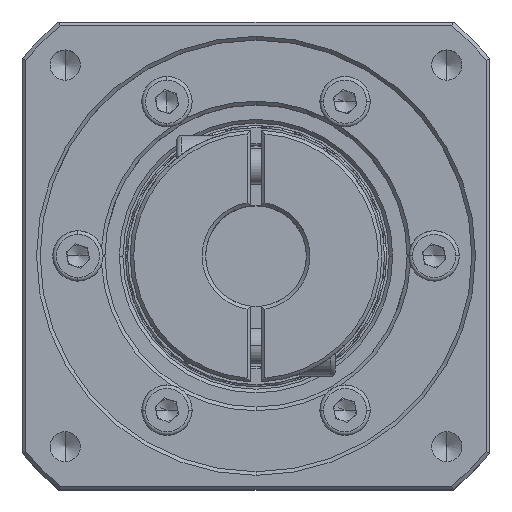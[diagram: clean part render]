
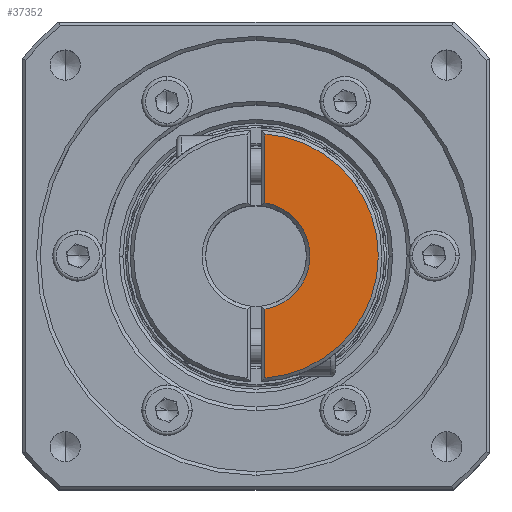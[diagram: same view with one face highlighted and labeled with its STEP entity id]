
A CAD part, top view. The second image highlights one B-rep face of the part: STEP entity #37352.
In plain terms, the highlighted planar face has unit normal (0, 0, 1).
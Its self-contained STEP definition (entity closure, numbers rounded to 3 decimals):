
#554 = DIRECTION ( 'NONE',  ( 0., -1., 0. ) ) ;
#1221 = CARTESIAN_POINT ( 'NONE',  ( -91.256, 61.278, 25.797 ) ) ;
#1455 = DIRECTION ( 'NONE',  ( 0., 0., -1. ) ) ;
#2382 = CIRCLE ( 'NONE', #106965, 17. ) ;
#5643 = AXIS2_PLACEMENT_3D ( 'NONE', #34129, #99745, #43590 ) ;
#5703 = CARTESIAN_POINT ( 'NONE',  ( -91.256, 73.069, 25.797 ) ) ;
#9567 = ORIENTED_EDGE ( 'NONE', *, *, #69779, .T. ) ;
#14756 = DIRECTION ( 'NONE',  ( 0., -1., 0. ) ) ;
#17293 = EDGE_CURVE ( 'NONE', #121199, #52963, #2382, .T. ) ;
#19879 = EDGE_CURVE ( 'NONE', #102534, #52963, #93773, .T. ) ;
#20115 = VECTOR ( 'NONE', #14756, 1000. ) ;
#26432 = EDGE_CURVE ( 'NONE', #121199, #117963, #92022, .T. ) ;
#32762 = AXIS2_PLACEMENT_3D ( 'NONE', #57638, #1455, #67108 ) ;
#33732 = PLANE ( 'NONE',  #5643 ) ;
#34129 = CARTESIAN_POINT ( 'NONE',  ( -92.506, 36.383, 25.797 ) ) ;
#37352 = ADVANCED_FACE ( 'NONE', ( #60000 ), #33732, .F. ) ;
#39342 = DIRECTION ( 'NONE',  ( 0., 0., -1. ) ) ;
#43590 = DIRECTION ( 'NONE',  ( -1., 0., 0. ) ) ;
#48332 = CARTESIAN_POINT ( 'NONE',  ( -91.256, 36.929, 25.797 ) ) ;
#52963 = VERTEX_POINT ( 'NONE', #48332 ) ;
#57638 = CARTESIAN_POINT ( 'NONE',  ( -92.506, 53.883, 25.797 ) ) ;
#60000 = FACE_OUTER_BOUND ( 'NONE', #102108, .T. ) ;
#66603 = CARTESIAN_POINT ( 'NONE',  ( -91.256, 73.069, 25.797 ) ) ;
#67108 = DIRECTION ( 'NONE',  ( 0., -1., 0. ) ) ;
#68812 = VECTOR ( 'NONE', #554, 1000. ) ;
#69779 = EDGE_CURVE ( 'NONE', #117963, #102534, #117929, .T. ) ;
#71847 = ORIENTED_EDGE ( 'NONE', *, *, #26432, .T. ) ;
#81182 = CARTESIAN_POINT ( 'NONE',  ( -91.256, 46.488, 25.797 ) ) ;
#84902 = ORIENTED_EDGE ( 'NONE', *, *, #19879, .T. ) ;
#92022 = LINE ( 'NONE', #5703, #20115 ) ;
#93773 = LINE ( 'NONE', #66603, #68812 ) ;
#94630 = ORIENTED_EDGE ( 'NONE', *, *, #17293, .F. ) ;
#95546 = CARTESIAN_POINT ( 'NONE',  ( -92.506, 53.883, 25.797 ) ) ;
#99745 = DIRECTION ( 'NONE',  ( 0., 0., -1. ) ) ;
#102108 = EDGE_LOOP ( 'NONE', ( #9567, #84902, #94630, #71847 ) ) ;
#102534 = VERTEX_POINT ( 'NONE', #81182 ) ;
#104625 = CARTESIAN_POINT ( 'NONE',  ( -91.256, 70.837, 25.797 ) ) ;
#104969 = DIRECTION ( 'NONE',  ( -1., 0., 0. ) ) ;
#106965 = AXIS2_PLACEMENT_3D ( 'NONE', #95546, #39342, #104969 ) ;
#117929 = CIRCLE ( 'NONE', #32762, 7.5 ) ;
#117963 = VERTEX_POINT ( 'NONE', #1221 ) ;
#121199 = VERTEX_POINT ( 'NONE', #104625 ) ;
